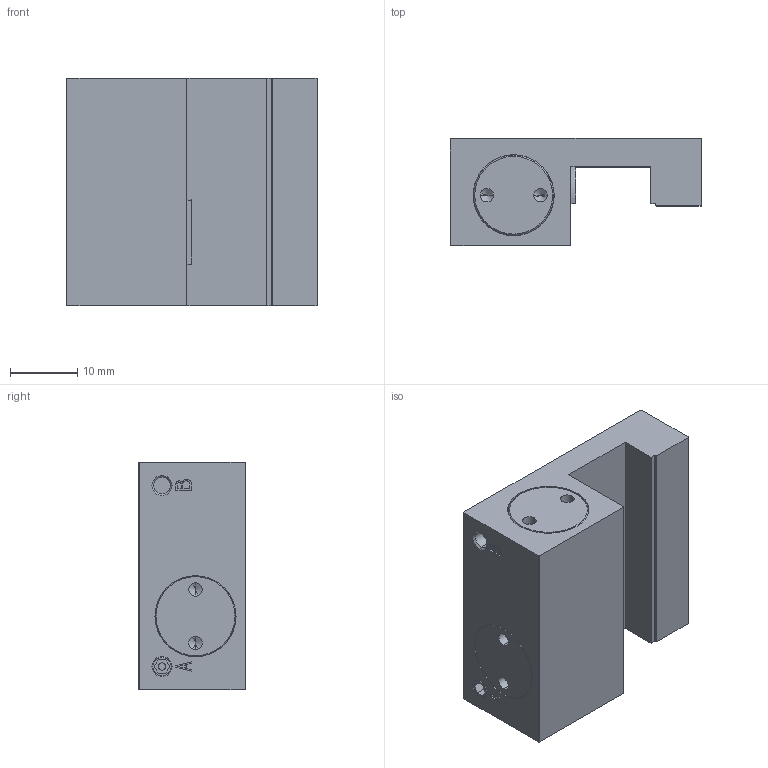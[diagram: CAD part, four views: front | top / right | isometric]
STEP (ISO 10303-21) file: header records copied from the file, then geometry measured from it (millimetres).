
FILE_DESCRIPTION( ( '' ), '1' );
FILE_NAME( 'E:/04 嬴檜蠱滌/0404 ZIMMER/040414 ZIMMER CAD download/MCP/MCP1205A---.stp', '2020-04-16T10:02:18', ( '' ), ( '' ), ' ', ' ', ' ' );
FILE_SCHEMA( ( 'automotive_design' ) );
Length unit declared in the file: millimetre
Products named in the file (1): 1
Bounding box: 37.5 x 16.05 x 34 mm (x, y, z)
Volume: 14060.9 mm3; surface area: 5285.2 mm2
Topology: 1 solids, 1 shells, 118 faces, 280 edges, 176 vertices
Faces by surface type: plane 64, cylinder 32, cone 22
Entity records: 6536 total; most frequent: DIRECTION 590, STYLED_ITEM 567, PRESENTATION_STYLE_ASSIGNMENT 567, CARTESIAN_POINT 567, COLOUR_RGB 567, ORIENTED_EDGE 544, EDGE_CURVE 272, CURVE_STYLE 272
